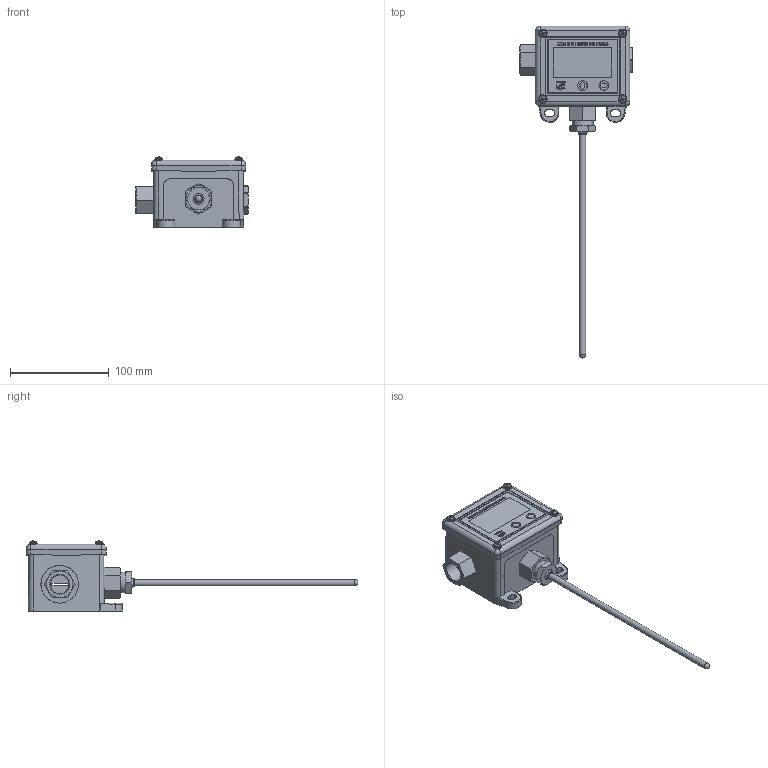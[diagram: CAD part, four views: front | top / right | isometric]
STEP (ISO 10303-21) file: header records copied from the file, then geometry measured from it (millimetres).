
FILE_DESCRIPTION (( 'STEP AP214' ), '1' );
FILE_NAME ('1GSWLLTL3.STEP', '2025-03-05T20:04:39', ( '' ), ( '' ), 'SwSTEP 2.0', 'SolidWorks 2023', '' );
FILE_SCHEMA (( 'AUTOMOTIVE_DESIGN' ));
Length unit declared in the file: inch
Products named in the file (1): 1GSWLLTL3
Bounding box: 113.49 x 335.9 x 70.85 mm (x, y, z)
Surface area: 54405.2 mm2 (no closed solid volume)
Topology: 0 solids, 16 shells, 374 faces, 1323 edges, 939 vertices
Faces by surface type: plane 213, cylinder 51, bspline 50, cone 42, torus 9, sphere 9
Full cylindrical faces by diameter (mm): 6.426 x1, 6.858 x4, 7.722 x1, 7.899 x4, 9.652 x2, 24.892 x1
Entity records: 18801 total; most frequent: CARTESIAN_POINT 8600, ORIENTED_EDGE 1963, DIRECTION 1811, EDGE_CURVE 1289, VERTEX_POINT 931, LINE 757, VECTOR 757, AXIS2_PLACEMENT_3D 527
